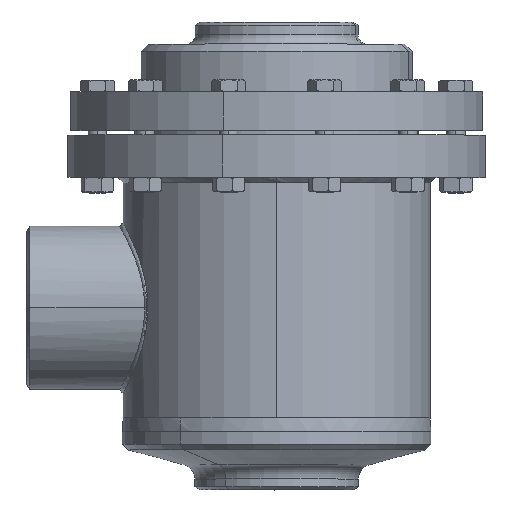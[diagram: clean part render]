
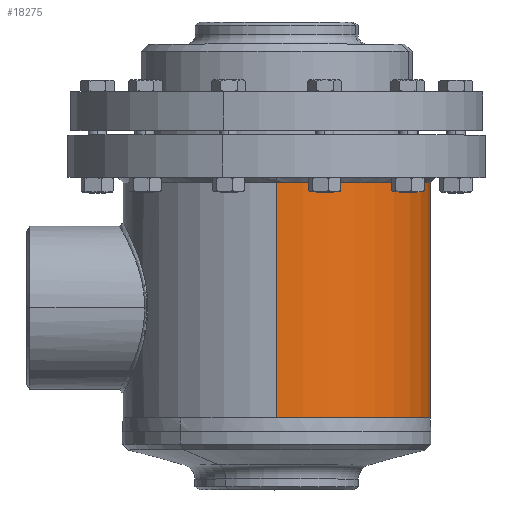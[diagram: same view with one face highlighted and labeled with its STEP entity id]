
A CAD part, top view. The second image highlights one B-rep face of the part: STEP entity #18275.
In plain terms, the highlighted cylindrical face has radius 83.5 mm (diameter 167 mm), a partial arc.
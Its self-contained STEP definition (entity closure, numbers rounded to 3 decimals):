
#16660 = ORIENTED_EDGE ( 'NONE', *, *, #4248, .T. ) ;
#17818 = EDGE_LOOP ( 'NONE', ( #16660, #3284, #8104, #6600 ) ) ;
#18275 = ADVANCED_FACE ( 'NONE', ( #22241 ), #22242, .T. ) ;
#3284 = ORIENTED_EDGE ( 'NONE', *, *, #8860, .T. ) ;
#3417 = CARTESIAN_POINT ( 'NONE',  ( 0., 73.932, -83.5 ) ) ;
#3524 = LINE ( 'NONE', #3525, #3526 ) ;
#3525 = CARTESIAN_POINT ( 'NONE',  ( 0., 45.442, -83.5 ) ) ;
#3526 = VECTOR ( 'NONE', #3527, 1000. ) ;
#3527 = DIRECTION ( 'NONE',  ( 0., 1., 0. ) ) ;
#3822 = VERTEX_POINT ( 'NONE', #14516 ) ;
#4054 = VERTEX_POINT ( 'NONE', #14915 ) ;
#4248 = EDGE_CURVE ( 'NONE', #4054, #3822, #15286, .T. ) ;
#22241 = FACE_OUTER_BOUND ( 'NONE', #17818, .T. ) ;
#22242 = CYLINDRICAL_SURFACE ( 'NONE', #22243, 83.5 ) ;
#22243 = AXIS2_PLACEMENT_3D ( 'NONE', #22244, #22245, #22246 ) ;
#22244 = CARTESIAN_POINT ( 'NONE',  ( 0., 45.442, 0. ) ) ;
#22245 = DIRECTION ( 'NONE',  ( 0., 1., 0. ) ) ;
#22246 = DIRECTION ( 'NONE',  ( 0., 0., 1. ) ) ;
#6220 = EDGE_CURVE ( 'NONE', #4054, #7137, #23538, .T. ) ;
#6600 = ORIENTED_EDGE ( 'NONE', *, *, #6220, .F. ) ;
#7137 = VERTEX_POINT ( 'NONE', #25291 ) ;
#23538 = LINE ( 'NONE', #23558, #23559 ) ;
#23558 = CARTESIAN_POINT ( 'NONE',  ( 0., 45.442, 83.5 ) ) ;
#23559 = VECTOR ( 'NONE', #23560, 1000. ) ;
#23560 = DIRECTION ( 'NONE',  ( 0., 1., 0. ) ) ;
#7368 = EDGE_CURVE ( 'NONE', #7137, #8625, #25712, .T. ) ;
#8104 = ORIENTED_EDGE ( 'NONE', *, *, #7368, .F. ) ;
#8625 = VERTEX_POINT ( 'NONE', #3417 ) ;
#8860 = EDGE_CURVE ( 'NONE', #3822, #8625, #3524, .T. ) ;
#25291 = CARTESIAN_POINT ( 'NONE',  ( 0., 73.932, 83.5 ) ) ;
#25712 = CIRCLE ( 'NONE', #25732, 83.5 ) ;
#25732 = AXIS2_PLACEMENT_3D ( 'NONE', #25733, #25734, #25735 ) ;
#25733 = CARTESIAN_POINT ( 'NONE',  ( 0., 73.932, 0. ) ) ;
#25734 = DIRECTION ( 'NONE',  ( 0., 1., 0. ) ) ;
#25735 = DIRECTION ( 'NONE',  ( 0., 0., 1. ) ) ;
#14516 = CARTESIAN_POINT ( 'NONE',  ( 0., -56.922, -83.5 ) ) ;
#14915 = CARTESIAN_POINT ( 'NONE',  ( 0., -56.922, 83.5 ) ) ;
#15286 = CIRCLE ( 'NONE', #15287, 83.5 ) ;
#15287 = AXIS2_PLACEMENT_3D ( 'NONE', #15288, #15289, #15290 ) ;
#15288 = CARTESIAN_POINT ( 'NONE',  ( 0., -56.922, 0. ) ) ;
#15289 = DIRECTION ( 'NONE',  ( 0., 1., 0. ) ) ;
#15290 = DIRECTION ( 'NONE',  ( 0., 0., 1. ) ) ;
